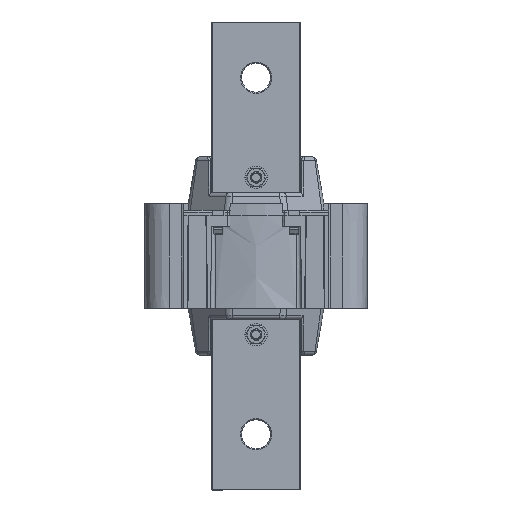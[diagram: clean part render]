
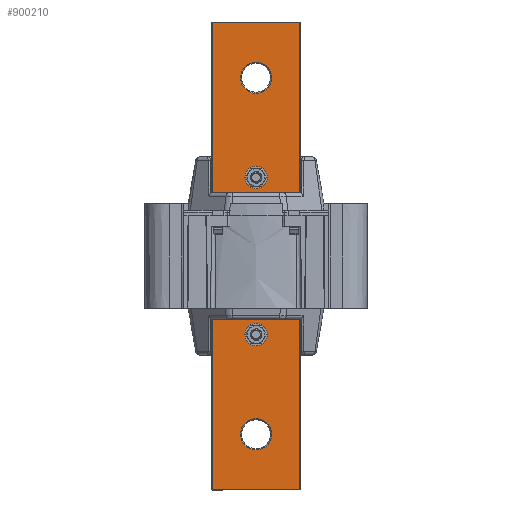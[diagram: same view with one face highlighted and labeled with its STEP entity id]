
A CAD part, front view. The second image highlights one B-rep face of the part: STEP entity #900210.
In plain terms, the highlighted planar face has unit normal (0, -1, 0).
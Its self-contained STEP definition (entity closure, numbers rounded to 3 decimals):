
#899220=CARTESIAN_POINT('',(-20.313,-4.74,-94.285));
#899230=DIRECTION('',(-0.,-1.,-0.));
#899240=DIRECTION('',(-1.,0.,0.));
#899250=AXIS2_PLACEMENT_3D('',#899220,#899230,#899240);
#899260=PLANE('',#899250);
#899270=CARTESIAN_POINT('',(-19.328,-4.74,4.85));
#899280=DIRECTION('',(0.,0.,1.));
#899290=VECTOR('',#899280,1.);
#899300=LINE('',#899270,#899290);
#899310=CARTESIAN_POINT('',(-19.328,-4.74,-89.05));
#899320=VERTEX_POINT('',#899310);
#899330=CARTESIAN_POINT('',(-19.328,-4.74,120.35));
#899340=VERTEX_POINT('',#899330);
#899350=EDGE_CURVE('',#899320,#899340,#899300,.T.);
#899360=ORIENTED_EDGE('',*,*,#899350,.F.);
#899370=CARTESIAN_POINT('',(-0.002,-4.74,120.35));
#899380=DIRECTION('',(-1.,0.,0.));
#899390=VECTOR('',#899380,1.);
#899400=LINE('',#899370,#899390);
#899410=CARTESIAN_POINT('',(20.072,-4.74,120.35));
#899420=VERTEX_POINT('',#899410);
#899430=EDGE_CURVE('',#899420,#899340,#899400,.T.);
#899440=ORIENTED_EDGE('',*,*,#899430,.T.);
#899450=CARTESIAN_POINT('',(20.072,-4.74,4.85));
#899460=DIRECTION('',(0.,0.,1.));
#899470=VECTOR('',#899460,1.);
#899480=LINE('',#899450,#899470);
#899490=CARTESIAN_POINT('',(20.072,-4.74,-89.05));
#899500=VERTEX_POINT('',#899490);
#899510=EDGE_CURVE('',#899500,#899420,#899480,.T.);
#899520=ORIENTED_EDGE('',*,*,#899510,.T.);
#899530=CARTESIAN_POINT('',(-0.002,-4.74,-89.05));
#899540=DIRECTION('',(-1.,0.,0.));
#899550=VECTOR('',#899540,1.);
#899560=LINE('',#899530,#899550);
#899570=EDGE_CURVE('',#899500,#899320,#899560,.T.);
#899580=ORIENTED_EDGE('',*,*,#899570,.F.);
#899590=EDGE_LOOP('',(#899580,#899520,#899440,#899360));
#899600=FACE_OUTER_BOUND('',#899590,.T.);
#899610=CARTESIAN_POINT('',(0.372,-4.74,-64.35));
#899620=DIRECTION('',(0.,-1.,0.));
#899630=DIRECTION('',(-1.,0.,0.));
#899640=AXIS2_PLACEMENT_3D('',#899610,#899620,#899630);
#899650=CIRCLE('',#899640,7.);
#899660=CARTESIAN_POINT('',(7.372,-4.74,-64.35));
#899670=VERTEX_POINT('',#899660);
#899680=CARTESIAN_POINT('',(-6.628,-4.74,-64.35));
#899690=VERTEX_POINT('',#899680);
#899700=EDGE_CURVE('',#899670,#899690,#899650,.T.);
#899710=ORIENTED_EDGE('',*,*,#899700,.F.);
#899720=EDGE_CURVE('',#899690,#899670,#899650,.T.);
#899730=ORIENTED_EDGE('',*,*,#899720,.F.);
#899740=EDGE_LOOP('',(#899730,#899710));
#899750=FACE_BOUND('',#899740,.T.);
#899760=CARTESIAN_POINT('',(0.372,-4.74,95.65));
#899770=DIRECTION('',(0.,-1.,0.));
#899780=DIRECTION('',(-1.,0.,0.));
#899790=AXIS2_PLACEMENT_3D('',#899760,#899770,#899780);
#899800=CIRCLE('',#899790,7.);
#899810=CARTESIAN_POINT('',(-6.628,-4.74,95.65));
#899820=VERTEX_POINT('',#899810);
#899830=CARTESIAN_POINT('',(7.372,-4.74,95.65));
#899840=VERTEX_POINT('',#899830);
#899850=EDGE_CURVE('',#899820,#899840,#899800,.T.);
#899860=ORIENTED_EDGE('',*,*,#899850,.F.);
#899870=EDGE_CURVE('',#899840,#899820,#899800,.T.);
#899880=ORIENTED_EDGE('',*,*,#899870,.F.);
#899890=EDGE_LOOP('',(#899880,#899860));
#899900=FACE_BOUND('',#899890,.T.);
#899910=CARTESIAN_POINT('',(0.372,-4.74,50.9));
#899920=DIRECTION('',(0.,1.,0.));
#899930=DIRECTION('',(-1.,0.,0.));
#899940=AXIS2_PLACEMENT_3D('',#899910,#899920,#899930);
#899950=CIRCLE('',#899940,5.);
#899960=CARTESIAN_POINT('',(-4.628,-4.74,50.9));
#899970=VERTEX_POINT('',#899960);
#899980=CARTESIAN_POINT('',(5.372,-4.74,50.9));
#899990=VERTEX_POINT('',#899980);
#900000=EDGE_CURVE('',#899970,#899990,#899950,.T.);
#900010=ORIENTED_EDGE('',*,*,#900000,.T.);
#900020=EDGE_CURVE('',#899990,#899970,#899950,.T.);
#900030=ORIENTED_EDGE('',*,*,#900020,.T.);
#900040=EDGE_LOOP('',(#900030,#900010));
#900050=FACE_BOUND('',#900040,.T.);
#900060=CARTESIAN_POINT('',(0.372,-4.74,-19.6));
#900070=DIRECTION('',(0.,1.,0.));
#900080=DIRECTION('',(-1.,0.,0.));
#900090=AXIS2_PLACEMENT_3D('',#900060,#900070,#900080);
#900100=CIRCLE('',#900090,5.);
#900110=CARTESIAN_POINT('',(-4.628,-4.74,-19.6));
#900120=VERTEX_POINT('',#900110);
#900130=CARTESIAN_POINT('',(5.372,-4.74,-19.6));
#900140=VERTEX_POINT('',#900130);
#900150=EDGE_CURVE('',#900120,#900140,#900100,.T.);
#900160=ORIENTED_EDGE('',*,*,#900150,.T.);
#900170=EDGE_CURVE('',#900140,#900120,#900100,.T.);
#900180=ORIENTED_EDGE('',*,*,#900170,.T.);
#900190=EDGE_LOOP('',(#900180,#900160));
#900200=FACE_BOUND('',#900190,.T.);
#900210=ADVANCED_FACE('',(#899600,#899750,#899900,#900050,#900200),
#899260,.T.);
